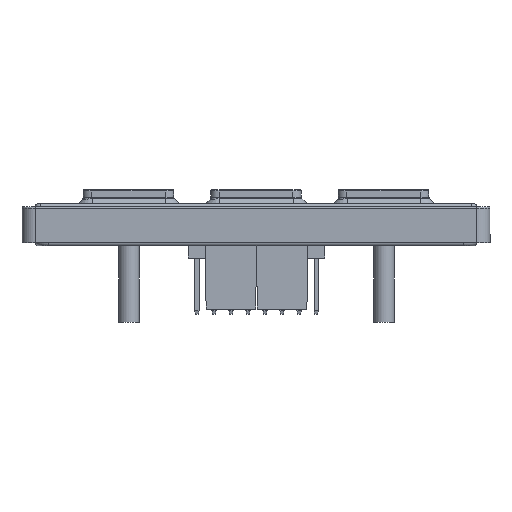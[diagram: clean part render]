
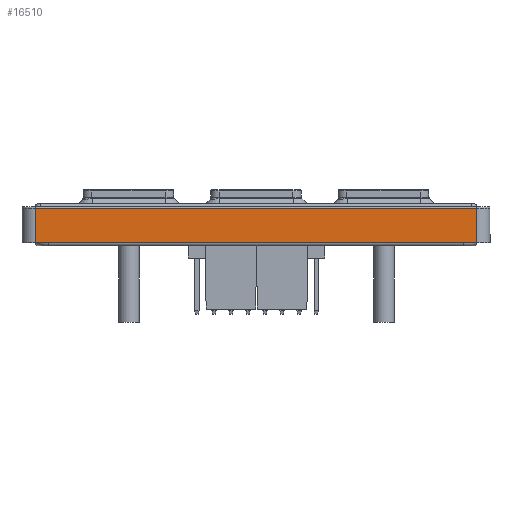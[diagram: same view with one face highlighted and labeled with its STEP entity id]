
A CAD part, front view. The second image highlights one B-rep face of the part: STEP entity #16510.
In plain terms, the highlighted planar face has unit normal (0, -1, 0).
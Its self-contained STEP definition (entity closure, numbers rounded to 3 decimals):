
#1507 = CARTESIAN_POINT ( 'NONE',  ( 32.86, -51.41, -0.4 ) ) ;
#1763 = VECTOR ( 'NONE', #5591, 1000. ) ;
#2893 = LINE ( 'NONE', #30938, #1763 ) ;
#4574 = DIRECTION ( 'NONE',  ( 0., -1., 0. ) ) ;
#4741 = EDGE_CURVE ( 'NONE', #31572, #21561, #19429, .T. ) ;
#5591 = DIRECTION ( 'NONE',  ( 0., 0., 1. ) ) ;
#6524 = FACE_OUTER_BOUND ( 'NONE', #8171, .T. ) ;
#6939 = DIRECTION ( 'NONE',  ( 0., 0., 1. ) ) ;
#8171 = EDGE_LOOP ( 'NONE', ( #36283, #8182, #14374, #33557 ) ) ;
#8182 = ORIENTED_EDGE ( 'NONE', *, *, #46155, .T. ) ;
#9533 = DIRECTION ( 'NONE',  ( -1., 0., 0. ) ) ;
#10727 = VERTEX_POINT ( 'NONE', #29494 ) ;
#13044 = LINE ( 'NONE', #28638, #40931 ) ;
#14374 = ORIENTED_EDGE ( 'NONE', *, *, #29413, .F. ) ;
#16510 = ADVANCED_FACE ( 'NONE', ( #6524 ), #33387, .T. ) ;
#18293 = VECTOR ( 'NONE', #19789, 1000. ) ;
#19066 = VECTOR ( 'NONE', #9533, 1000. ) ;
#19429 = LINE ( 'NONE', #37301, #18293 ) ;
#19789 = DIRECTION ( 'NONE',  ( -1., 0., 0. ) ) ;
#21561 = VERTEX_POINT ( 'NONE', #29141 ) ;
#26265 = CARTESIAN_POINT ( 'NONE',  ( -32.86, -51.41, -2.45 ) ) ;
#28638 = CARTESIAN_POINT ( 'NONE',  ( 32.86, -51.41, -2.45 ) ) ;
#28707 = LINE ( 'NONE', #45880, #19066 ) ;
#29141 = CARTESIAN_POINT ( 'NONE',  ( -32.86, -51.41, -5.55 ) ) ;
#29413 = EDGE_CURVE ( 'NONE', #21561, #10727, #2893, .T. ) ;
#29494 = CARTESIAN_POINT ( 'NONE',  ( -32.86, -51.41, -0.4 ) ) ;
#29885 = DIRECTION ( 'NONE',  ( 1., 0., 0. ) ) ;
#30938 = CARTESIAN_POINT ( 'NONE',  ( -32.86, -51.41, -2.45 ) ) ;
#31572 = VERTEX_POINT ( 'NONE', #33502 ) ;
#33387 = PLANE ( 'NONE',  #44805 ) ;
#33502 = CARTESIAN_POINT ( 'NONE',  ( 32.86, -51.41, -5.55 ) ) ;
#33557 = ORIENTED_EDGE ( 'NONE', *, *, #4741, .F. ) ;
#35681 = VERTEX_POINT ( 'NONE', #1507 ) ;
#36283 = ORIENTED_EDGE ( 'NONE', *, *, #37887, .T. ) ;
#37301 = CARTESIAN_POINT ( 'NONE',  ( 32.86, -51.41, -5.55 ) ) ;
#37887 = EDGE_CURVE ( 'NONE', #31572, #35681, #13044, .T. ) ;
#40931 = VECTOR ( 'NONE', #6939, 1000. ) ;
#44805 = AXIS2_PLACEMENT_3D ( 'NONE', #26265, #4574, #29885 ) ;
#45880 = CARTESIAN_POINT ( 'NONE',  ( -32.86, -51.41, -0.4 ) ) ;
#46155 = EDGE_CURVE ( 'NONE', #35681, #10727, #28707, .T. ) ;
